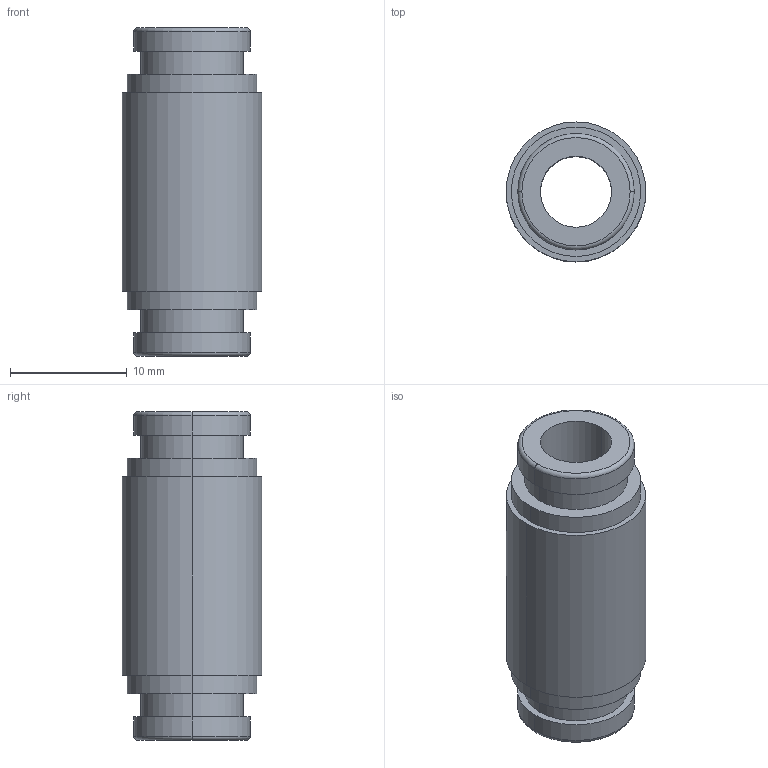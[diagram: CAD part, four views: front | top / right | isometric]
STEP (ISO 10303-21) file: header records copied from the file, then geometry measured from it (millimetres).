
FILE_DESCRIPTION (( 'STEP AP214' ), '1' );
FILE_NAME ('KQG2H06-00.step.step', '2022-04-28T15:13:48', ( '' ), ( '' ), 'SwSTEP 2.0', 'SolidWorks 2021', '' );
FILE_SCHEMA (( 'AUTOMOTIVE_DESIGN' ));
Length unit declared in the file: millimetre
Products named in the file (2): KQG2H06-00.step; KQG2H06-00.step_KQG2 Straight Union_06-00
Assembly tree (1 placements, depth 2):
  KQG2H06-00.step
    KQG2H06-00.step_KQG2 Straight Union_06-00
Bounding box: 12 x 12 x 28.2 mm (x, y, z)
Volume: 1964 mm3; surface area: 1758.2 mm2
Topology: 1 solids, 1 shells, 28 faces, 56 edges, 36 vertices
Faces by surface type: cylinder 16, plane 8, torus 4
Entity records: 818 total; most frequent: DIRECTION 160, CARTESIAN_POINT 124, ORIENTED_EDGE 112, AXIS2_PLACEMENT_3D 72, EDGE_CURVE 56, CIRCLE 40, VERTEX_POINT 36, EDGE_LOOP 36
